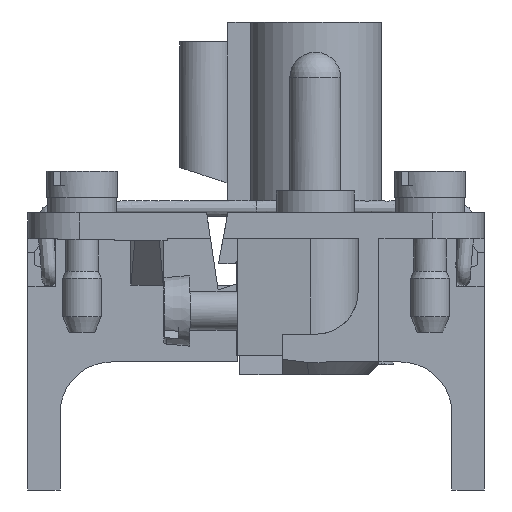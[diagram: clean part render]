
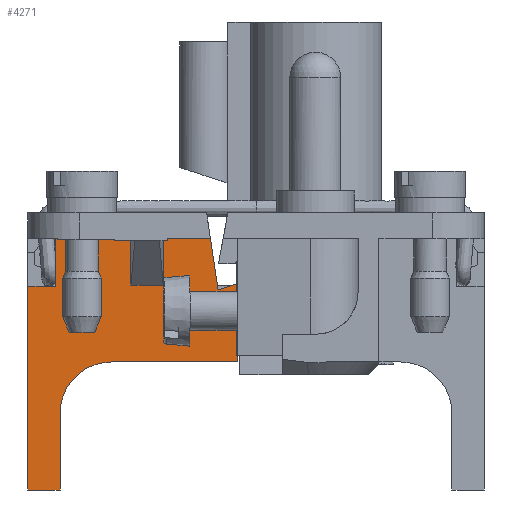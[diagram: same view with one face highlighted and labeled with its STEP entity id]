
A CAD part, left-side view. The second image highlights one B-rep face of the part: STEP entity #4271.
In plain terms, the highlighted planar face has unit normal (-1, 0, 0).
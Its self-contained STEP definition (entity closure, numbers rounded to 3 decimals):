
#3645=PLANE('',#18011);
#4271=ADVANCED_FACE('',(#4825),#3645,.T.);
#4825=FACE_OUTER_BOUND('',#5448,.T.);
#5448=EDGE_LOOP('',(#7812,#7813,#7814,#7815,#7816,#7817,#7818,#7819,#7820,
#7821,#7822,#7823,#7824,#7825,#7826,#7827,#7828,#7829,#7830));
#7812=ORIENTED_EDGE('',*,*,#11348,.F.);
#7813=ORIENTED_EDGE('',*,*,#11349,.F.);
#7814=ORIENTED_EDGE('',*,*,#11322,.T.);
#7815=ORIENTED_EDGE('',*,*,#11284,.T.);
#7816=ORIENTED_EDGE('',*,*,#11350,.F.);
#7817=ORIENTED_EDGE('',*,*,#11351,.T.);
#7818=ORIENTED_EDGE('',*,*,#10900,.F.);
#7819=ORIENTED_EDGE('',*,*,#11352,.F.);
#7820=ORIENTED_EDGE('',*,*,#11353,.F.);
#7821=ORIENTED_EDGE('',*,*,#11354,.F.);
#7822=ORIENTED_EDGE('',*,*,#10896,.F.);
#7823=ORIENTED_EDGE('',*,*,#11355,.T.);
#7824=ORIENTED_EDGE('',*,*,#11356,.F.);
#7825=ORIENTED_EDGE('',*,*,#11202,.T.);
#7826=ORIENTED_EDGE('',*,*,#11357,.T.);
#7827=ORIENTED_EDGE('',*,*,#11358,.T.);
#7828=ORIENTED_EDGE('',*,*,#11359,.T.);
#7829=ORIENTED_EDGE('',*,*,#11360,.T.);
#7830=ORIENTED_EDGE('',*,*,#11361,.T.);
#9506=VERTEX_POINT('',#23987);
#9507=VERTEX_POINT('',#23989);
#9510=VERTEX_POINT('',#23995);
#9511=VERTEX_POINT('',#23997);
#9806=VERTEX_POINT('',#24881);
#9810=VERTEX_POINT('',#24891);
#9890=VERTEX_POINT('',#25096);
#9891=VERTEX_POINT('',#25098);
#9917=VERTEX_POINT('',#25181);
#9939=VERTEX_POINT('',#25233);
#9940=VERTEX_POINT('',#25234);
#9941=VERTEX_POINT('',#25237);
#9942=VERTEX_POINT('',#25240);
#9943=VERTEX_POINT('',#25242);
#9944=VERTEX_POINT('',#25245);
#9945=VERTEX_POINT('',#25248);
#9946=VERTEX_POINT('',#25250);
#9947=VERTEX_POINT('',#25252);
#9948=VERTEX_POINT('',#25254);
#10896=EDGE_CURVE('',#9506,#9507,#14125,.T.);
#10900=EDGE_CURVE('',#9510,#9511,#14129,.T.);
#11202=EDGE_CURVE('',#9806,#9810,#14344,.T.);
#11284=EDGE_CURVE('',#9891,#9890,#14420,.T.);
#11322=EDGE_CURVE('',#9917,#9891,#14455,.T.);
#11348=EDGE_CURVE('',#9939,#9940,#14474,.T.);
#11349=EDGE_CURVE('',#9917,#9939,#14475,.T.);
#11350=EDGE_CURVE('',#9941,#9890,#14476,.T.);
#11351=EDGE_CURVE('',#9941,#9511,#14477,.T.);
#11352=EDGE_CURVE('',#9942,#9510,#14478,.T.);
#11353=EDGE_CURVE('',#9943,#9942,#14479,.T.);
#11354=EDGE_CURVE('',#9507,#9943,#14480,.T.);
#11355=EDGE_CURVE('',#9506,#9944,#14481,.T.);
#11356=EDGE_CURVE('',#9806,#9944,#14482,.T.);
#11357=EDGE_CURVE('',#9810,#9945,#14483,.T.);
#11358=EDGE_CURVE('',#9945,#9946,#14484,.T.);
#11359=EDGE_CURVE('',#9946,#9947,#12414,.T.);
#11360=EDGE_CURVE('',#9947,#9948,#14485,.T.);
#11361=EDGE_CURVE('',#9948,#9940,#14486,.T.);
#12414=CIRCLE('',#18010,4.);
#14125=LINE('',#23988,#15548);
#14129=LINE('',#23996,#15552);
#14344=LINE('',#24892,#15767);
#14420=LINE('',#25097,#15843);
#14455=LINE('',#25180,#15878);
#14474=LINE('',#25232,#15897);
#14475=LINE('',#25235,#15898);
#14476=LINE('',#25236,#15899);
#14477=LINE('',#25238,#15900);
#14478=LINE('',#25239,#15901);
#14479=LINE('',#25241,#15902);
#14480=LINE('',#25243,#15903);
#14481=LINE('',#25244,#15904);
#14482=LINE('',#25246,#15905);
#14483=LINE('',#25247,#15906);
#14484=LINE('',#25249,#15907);
#14485=LINE('',#25253,#15908);
#14486=LINE('',#25255,#15909);
#15548=VECTOR('',#19773,1.);
#15552=VECTOR('',#19777,1.);
#15767=VECTOR('',#20020,1.);
#15843=VECTOR('',#20140,1.);
#15878=VECTOR('',#20191,1.);
#15897=VECTOR('',#20232,1.);
#15898=VECTOR('',#20233,1.);
#15899=VECTOR('',#20234,1.);
#15900=VECTOR('',#20235,1.);
#15901=VECTOR('',#20236,1.);
#15902=VECTOR('',#20237,1.);
#15903=VECTOR('',#20238,1.);
#15904=VECTOR('',#20239,1.);
#15905=VECTOR('',#20240,1.);
#15906=VECTOR('',#20241,1.);
#15907=VECTOR('',#20242,1.);
#15908=VECTOR('',#20245,1.);
#15909=VECTOR('',#20246,1.);
#18010=AXIS2_PLACEMENT_3D('',#25251,#20243,#20244);
#18011=AXIS2_PLACEMENT_3D('',#25256,#20247,#20248);
#19773=DIRECTION('',(0.,-1.,-0.017));
#19777=DIRECTION('',(0.,-1.,-0.017));
#20020=DIRECTION('',(0.,0.,-1.));
#20140=DIRECTION('',(0.,0.148,0.989));
#20191=DIRECTION('',(0.,0.951,-0.309));
#20232=DIRECTION('',(0.,1.,0.));
#20233=DIRECTION('',(0.,0.,-1.));
#20234=DIRECTION('',(0.,-1.,0.));
#20235=DIRECTION('',(0.,0.,-1.));
#20236=DIRECTION('',(0.,0.,1.));
#20237=DIRECTION('',(0.,-1.,0.));
#20238=DIRECTION('',(0.,0.,-1.));
#20239=DIRECTION('',(0.,0.,-1.));
#20240=DIRECTION('',(0.,-1.,0.));
#20241=DIRECTION('',(0.,-1.,0.));
#20242=DIRECTION('',(0.,0.,1.));
#20243=DIRECTION('',(1.,0.,0.));
#20244=DIRECTION('',(0.,-1.,0.));
#20245=DIRECTION('',(0.,-1.,0.));
#20246=DIRECTION('',(0.,0.,1.));
#20247=DIRECTION('',(-1.,0.,0.));
#20248=DIRECTION('',(0.,0.,1.));
#23987=CARTESIAN_POINT('',(-61.1,15.55,-0.029));
#23988=CARTESIAN_POINT('',(-61.1,5.4,-0.206));
#23989=CARTESIAN_POINT('',(-61.1,9.7,-0.131));
#23995=CARTESIAN_POINT('',(-61.1,7.2,-0.175));
#23996=CARTESIAN_POINT('',(-61.1,14.86,-0.041));
#23997=CARTESIAN_POINT('',(-61.1,6.9,-0.18));
#24881=CARTESIAN_POINT('',(-61.1,17.7,-3.7));
#24891=CARTESIAN_POINT('',(-61.1,17.7,-19.5));
#24892=CARTESIAN_POINT('',(-61.1,17.7,-19.5));
#25096=CARTESIAN_POINT('',(-61.1,3.537,0.));
#25097=CARTESIAN_POINT('',(-61.1,3.037,-3.344));
#25098=CARTESIAN_POINT('',(-61.1,2.941,-3.987));
#25180=CARTESIAN_POINT('',(-61.1,-1.351,-2.592));
#25181=CARTESIAN_POINT('',(-61.1,1.35,-3.47));
#25232=CARTESIAN_POINT('',(-61.1,15.2,-6.));
#25233=CARTESIAN_POINT('',(-61.1,1.35,-6.));
#25234=CARTESIAN_POINT('',(-61.1,1.4,-6.));
#25235=CARTESIAN_POINT('',(-61.1,1.35,-19.5));
#25236=CARTESIAN_POINT('',(-61.1,6.9,0.));
#25237=CARTESIAN_POINT('',(-61.1,6.9,0.));
#25238=CARTESIAN_POINT('',(-61.1,6.9,0.));
#25239=CARTESIAN_POINT('',(-61.1,7.2,-9.275));
#25240=CARTESIAN_POINT('',(-61.1,7.2,-3.6));
#25241=CARTESIAN_POINT('',(-61.1,15.2,-3.6));
#25242=CARTESIAN_POINT('',(-61.1,9.7,-3.6));
#25243=CARTESIAN_POINT('',(-61.1,9.7,-19.5));
#25244=CARTESIAN_POINT('',(-61.1,15.55,-19.5));
#25245=CARTESIAN_POINT('',(-61.1,15.55,-3.7));
#25246=CARTESIAN_POINT('',(-61.1,15.2,-3.7));
#25247=CARTESIAN_POINT('',(-61.1,15.2,-19.5));
#25248=CARTESIAN_POINT('',(-61.1,15.2,-19.5));
#25249=CARTESIAN_POINT('',(-61.1,15.2,-19.5));
#25250=CARTESIAN_POINT('',(-61.1,15.2,-13.57));
#25251=CARTESIAN_POINT('',(-61.1,11.2,-13.57));
#25252=CARTESIAN_POINT('',(-61.1,11.2,-9.57));
#25253=CARTESIAN_POINT('',(-61.1,11.2,-9.57));
#25254=CARTESIAN_POINT('',(-61.1,1.4,-9.57));
#25255=CARTESIAN_POINT('',(-61.1,1.4,-9.57));
#25256=CARTESIAN_POINT('',(-61.1,15.2,-19.5));
